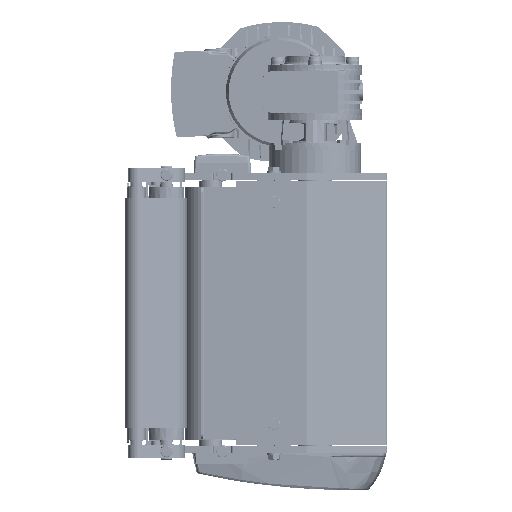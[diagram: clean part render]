
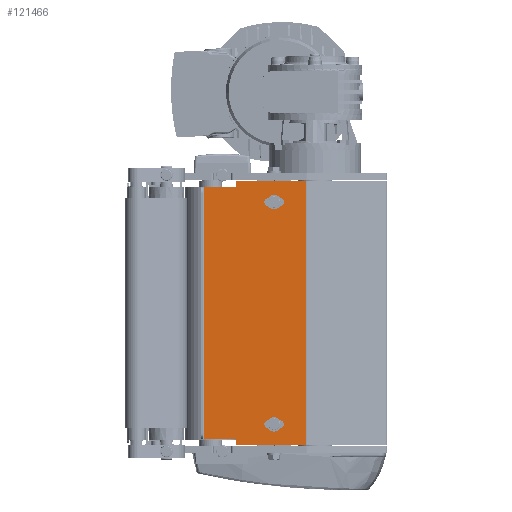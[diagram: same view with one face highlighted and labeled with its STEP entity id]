
A CAD part, left-side view. The second image highlights one B-rep face of the part: STEP entity #121466.
In plain terms, the highlighted planar face has unit normal (-1, 0, 0).
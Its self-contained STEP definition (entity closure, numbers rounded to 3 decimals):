
#29 = VERTEX_POINT ( 'NONE', #86794 ) ;
#88 = LINE ( 'NONE', #55636, #121563 ) ;
#128 = DIRECTION ( 'NONE',  ( 1., 0., 0. ) ) ;
#2658 = CARTESIAN_POINT ( 'NONE',  ( -90., 70.086, 113.5 ) ) ;
#3951 = LINE ( 'NONE', #85043, #94709 ) ;
#4677 = DIRECTION ( 'NONE',  ( 0., -1., 0. ) ) ;
#4810 = VECTOR ( 'NONE', #44658, 1000. ) ;
#5194 = ORIENTED_EDGE ( 'NONE', *, *, #59562, .T. ) ;
#8730 = CIRCLE ( 'NONE', #32061, 3.5 ) ;
#9839 = EDGE_CURVE ( 'NONE', #138084, #27730, #8730, .T. ) ;
#9923 = LINE ( 'NONE', #137471, #64623 ) ;
#10622 = CARTESIAN_POINT ( 'NONE',  ( -90., 131.5, 113.5 ) ) ;
#12035 = ORIENTED_EDGE ( 'NONE', *, *, #104462, .T. ) ;
#12088 = VECTOR ( 'NONE', #164915, 1000. ) ;
#14645 = DIRECTION ( 'NONE',  ( 0., 0., -1. ) ) ;
#15151 = VERTEX_POINT ( 'NONE', #117881 ) ;
#15384 = CARTESIAN_POINT ( 'NONE',  ( -90., 103., 95.5 ) ) ;
#15495 = EDGE_CURVE ( 'NONE', #141661, #141542, #173237, .T. ) ;
#19429 = CARTESIAN_POINT ( 'NONE',  ( -90., 160., -94. ) ) ;
#20268 = VERTEX_POINT ( 'NONE', #75891 ) ;
#22968 = LINE ( 'NONE', #78504, #103157 ) ;
#23068 = CARTESIAN_POINT ( 'NONE',  ( -90., 103., -94. ) ) ;
#23823 = CARTESIAN_POINT ( 'NONE',  ( -90., 93., 92. ) ) ;
#24065 = EDGE_CURVE ( 'NONE', #126491, #131830, #9923, .T. ) ;
#26815 = AXIS2_PLACEMENT_3D ( 'NONE', #84776, #128, #14645 ) ;
#27353 = DIRECTION ( 'NONE',  ( 1., 0., 0. ) ) ;
#27730 = VERTEX_POINT ( 'NONE', #23068 ) ;
#29057 = VECTOR ( 'NONE', #61557, 1000. ) ;
#32061 = AXIS2_PLACEMENT_3D ( 'NONE', #163773, #121018, #38136 ) ;
#32249 = LINE ( 'NONE', #19429, #99956 ) ;
#33934 = EDGE_LOOP ( 'NONE', ( #79201, #12035, #133677, #39963 ) ) ;
#34443 = LINE ( 'NONE', #10622, #162814 ) ;
#34652 = FACE_OUTER_BOUND ( 'NONE', #141447, .T. ) ;
#35663 = CARTESIAN_POINT ( 'NONE',  ( -90., 103., 99. ) ) ;
#35697 = VERTEX_POINT ( 'NONE', #2658 ) ;
#37098 = LINE ( 'NONE', #78043, #178805 ) ;
#37122 = CARTESIAN_POINT ( 'NONE',  ( -90., 158.5, -110.5 ) ) ;
#37583 = EDGE_CURVE ( 'NONE', #94662, #91848, #3951, .T. ) ;
#38136 = DIRECTION ( 'NONE',  ( 0., 0., -1. ) ) ;
#39963 = ORIENTED_EDGE ( 'NONE', *, *, #9839, .T. ) ;
#40161 = LINE ( 'NONE', #161290, #78172 ) ;
#43572 = VERTEX_POINT ( 'NONE', #175541 ) ;
#44658 = DIRECTION ( 'NONE',  ( 0., 1., 0. ) ) ;
#44916 = EDGE_LOOP ( 'NONE', ( #177694, #101268, #5194, #80926 ) ) ;
#45924 = VERTEX_POINT ( 'NONE', #23823 ) ;
#48429 = CARTESIAN_POINT ( 'NONE',  ( -90., 131.5, 113.5 ) ) ;
#48795 = DIRECTION ( 'NONE',  ( 0., 0., -1. ) ) ;
#51231 = ORIENTED_EDGE ( 'NONE', *, *, #170055, .T. ) ;
#53499 = AXIS2_PLACEMENT_3D ( 'NONE', #91011, #132057, #90134 ) ;
#55055 = CARTESIAN_POINT ( 'NONE',  ( -90., 103., 92. ) ) ;
#55636 = CARTESIAN_POINT ( 'NONE',  ( -90., 160., 108.5 ) ) ;
#57285 = ORIENTED_EDGE ( 'NONE', *, *, #94715, .T. ) ;
#59562 = EDGE_CURVE ( 'NONE', #45924, #104640, #40161, .T. ) ;
#61438 = VERTEX_POINT ( 'NONE', #164759 ) ;
#61557 = DIRECTION ( 'NONE',  ( 0., -1., 0. ) ) ;
#62058 = LINE ( 'NONE', #48429, #12088 ) ;
#64425 = CIRCLE ( 'NONE', #26815, 3.5 ) ;
#64623 = VECTOR ( 'NONE', #163880, 1000. ) ;
#65922 = EDGE_CURVE ( 'NONE', #27730, #15151, #32249, .T. ) ;
#69304 = ORIENTED_EDGE ( 'NONE', *, *, #135096, .T. ) ;
#72128 = CARTESIAN_POINT ( 'NONE',  ( -90., 160., 99. ) ) ;
#74307 = LINE ( 'NONE', #104343, #29057 ) ;
#75891 = CARTESIAN_POINT ( 'NONE',  ( -90., 131.5, 108.5 ) ) ;
#78043 = CARTESIAN_POINT ( 'NONE',  ( -90., 70.086, 113.5 ) ) ;
#78172 = VECTOR ( 'NONE', #149427, 1000. ) ;
#78257 = PLANE ( 'NONE',  #53499 ) ;
#78486 = CARTESIAN_POINT ( 'NONE',  ( -90., 103., -101. ) ) ;
#78504 = CARTESIAN_POINT ( 'NONE',  ( -90., 160., -110.5 ) ) ;
#79201 = ORIENTED_EDGE ( 'NONE', *, *, #65922, .T. ) ;
#80926 = ORIENTED_EDGE ( 'NONE', *, *, #140390, .T. ) ;
#82836 = DIRECTION ( 'NONE',  ( 0., 0., -1. ) ) ;
#84700 = CIRCLE ( 'NONE', #177874, 3.5 ) ;
#84776 = CARTESIAN_POINT ( 'NONE',  ( -90., 93., 95.5 ) ) ;
#84874 = CARTESIAN_POINT ( 'NONE',  ( -90., 93., 99. ) ) ;
#85043 = CARTESIAN_POINT ( 'NONE',  ( -90., 158.5, 113.5 ) ) ;
#86794 = CARTESIAN_POINT ( 'NONE',  ( -90., 93., -101. ) ) ;
#87060 = EDGE_CURVE ( 'NONE', #141542, #45924, #64425, .T. ) ;
#89850 = CIRCLE ( 'NONE', #116030, 3.5 ) ;
#90134 = DIRECTION ( 'NONE',  ( 0., 0., -1. ) ) ;
#90596 = EDGE_CURVE ( 'NONE', #35697, #131830, #37098, .T. ) ;
#91011 = CARTESIAN_POINT ( 'NONE',  ( -90., 160., 113.5 ) ) ;
#91848 = VERTEX_POINT ( 'NONE', #37122 ) ;
#94662 = VERTEX_POINT ( 'NONE', #119559 ) ;
#94709 = VECTOR ( 'NONE', #125204, 1000. ) ;
#94715 = EDGE_CURVE ( 'NONE', #91848, #43572, #22968, .T. ) ;
#99956 = VECTOR ( 'NONE', #103228, 1000. ) ;
#101268 = ORIENTED_EDGE ( 'NONE', *, *, #87060, .T. ) ;
#103157 = VECTOR ( 'NONE', #134070, 1000. ) ;
#103228 = DIRECTION ( 'NONE',  ( 0., -1., 0. ) ) ;
#103369 = ORIENTED_EDGE ( 'NONE', *, *, #37583, .T. ) ;
#103656 = ORIENTED_EDGE ( 'NONE', *, *, #24065, .T. ) ;
#104343 = CARTESIAN_POINT ( 'NONE',  ( -90., 160., 113.5 ) ) ;
#104462 = EDGE_CURVE ( 'NONE', #15151, #29, #89850, .T. ) ;
#104640 = VERTEX_POINT ( 'NONE', #55055 ) ;
#105206 = DIRECTION ( 'NONE',  ( 1., 0., 0. ) ) ;
#105396 = EDGE_CURVE ( 'NONE', #61438, #35697, #74307, .T. ) ;
#106408 = CARTESIAN_POINT ( 'NONE',  ( -90., 70.086, -115.5 ) ) ;
#116030 = AXIS2_PLACEMENT_3D ( 'NONE', #173584, #105206, #48795 ) ;
#116308 = VECTOR ( 'NONE', #4677, 1000. ) ;
#117881 = CARTESIAN_POINT ( 'NONE',  ( -90., 93., -94. ) ) ;
#119559 = CARTESIAN_POINT ( 'NONE',  ( -90., 158.5, 108.5 ) ) ;
#119993 = DIRECTION ( 'NONE',  ( 0., 0., -1. ) ) ;
#121017 = ORIENTED_EDGE ( 'NONE', *, *, #152527, .T. ) ;
#121018 = DIRECTION ( 'NONE',  ( 1., 0., 0. ) ) ;
#121466 = ADVANCED_FACE ( 'NONE', ( #173993, #160287, #34652 ), #78257, .F. ) ;
#121563 = VECTOR ( 'NONE', #166762, 1000. ) ;
#125204 = DIRECTION ( 'NONE',  ( 0., 0., -1. ) ) ;
#126491 = VERTEX_POINT ( 'NONE', #136979 ) ;
#130217 = CARTESIAN_POINT ( 'NONE',  ( -90., 160., -101. ) ) ;
#131830 = VERTEX_POINT ( 'NONE', #106408 ) ;
#132057 = DIRECTION ( 'NONE',  ( 1., 0., 0. ) ) ;
#133677 = ORIENTED_EDGE ( 'NONE', *, *, #143140, .T. ) ;
#134070 = DIRECTION ( 'NONE',  ( 0., -1., 0. ) ) ;
#135096 = EDGE_CURVE ( 'NONE', #20268, #94662, #88, .T. ) ;
#136979 = CARTESIAN_POINT ( 'NONE',  ( -90., 131.5, -115.5 ) ) ;
#137471 = CARTESIAN_POINT ( 'NONE',  ( -90., 160., -115.5 ) ) ;
#137895 = ORIENTED_EDGE ( 'NONE', *, *, #90596, .F. ) ;
#138084 = VERTEX_POINT ( 'NONE', #78486 ) ;
#140390 = EDGE_CURVE ( 'NONE', #104640, #141661, #84700, .T. ) ;
#141447 = EDGE_LOOP ( 'NONE', ( #121017, #69304, #103369, #57285, #51231, #103656, #137895, #162682 ) ) ;
#141542 = VERTEX_POINT ( 'NONE', #84874 ) ;
#141661 = VERTEX_POINT ( 'NONE', #35663 ) ;
#143140 = EDGE_CURVE ( 'NONE', #29, #138084, #168521, .T. ) ;
#148183 = DIRECTION ( 'NONE',  ( 0., 0., -1. ) ) ;
#149427 = DIRECTION ( 'NONE',  ( 0., 1., 0. ) ) ;
#152527 = EDGE_CURVE ( 'NONE', #61438, #20268, #62058, .T. ) ;
#160287 = FACE_BOUND ( 'NONE', #44916, .T. ) ;
#161290 = CARTESIAN_POINT ( 'NONE',  ( -90., 160., 92. ) ) ;
#162682 = ORIENTED_EDGE ( 'NONE', *, *, #105396, .F. ) ;
#162814 = VECTOR ( 'NONE', #119993, 1000. ) ;
#163773 = CARTESIAN_POINT ( 'NONE',  ( -90., 103., -97.5 ) ) ;
#163880 = DIRECTION ( 'NONE',  ( 0., -1., 0. ) ) ;
#164759 = CARTESIAN_POINT ( 'NONE',  ( -90., 131.5, 113.5 ) ) ;
#164915 = DIRECTION ( 'NONE',  ( 0., 0., -1. ) ) ;
#166762 = DIRECTION ( 'NONE',  ( 0., 1., 0. ) ) ;
#168521 = LINE ( 'NONE', #130217, #4810 ) ;
#170055 = EDGE_CURVE ( 'NONE', #43572, #126491, #34443, .T. ) ;
#173237 = LINE ( 'NONE', #72128, #116308 ) ;
#173584 = CARTESIAN_POINT ( 'NONE',  ( -90., 93., -97.5 ) ) ;
#173993 = FACE_BOUND ( 'NONE', #33934, .T. ) ;
#175541 = CARTESIAN_POINT ( 'NONE',  ( -90., 131.5, -110.5 ) ) ;
#177694 = ORIENTED_EDGE ( 'NONE', *, *, #15495, .T. ) ;
#177874 = AXIS2_PLACEMENT_3D ( 'NONE', #15384, #27353, #82836 ) ;
#178805 = VECTOR ( 'NONE', #148183, 1000. ) ;
